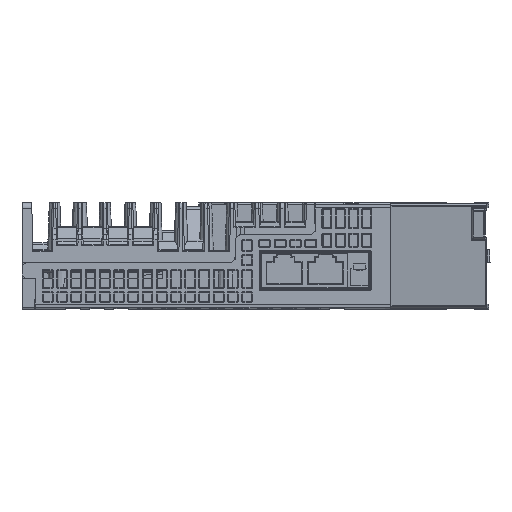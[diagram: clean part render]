
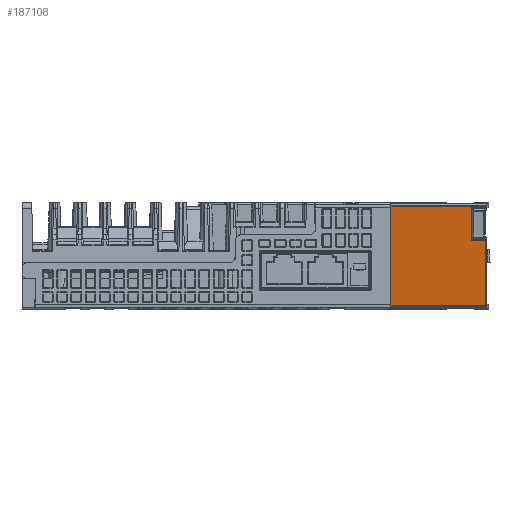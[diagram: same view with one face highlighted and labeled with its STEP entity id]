
A CAD part, left-side view. The second image highlights one B-rep face of the part: STEP entity #187108.
In plain terms, the highlighted planar face has unit normal (-0.985, 0.174, 0).
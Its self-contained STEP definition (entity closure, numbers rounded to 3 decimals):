
#54335=DIRECTION('',(0.174,0.985,0.));
#54336=VECTOR('',#54335,36.104);
#54337=CARTESIAN_POINT('',(-90.768,-97.282,
32.593));
#54338=LINE('',#54337,#54336);
#54347=DIRECTION('',(-0.174,-0.985,
0.));
#54348=VECTOR('',#54347,36.104);
#54349=CARTESIAN_POINT('',(-84.498,-61.727,
-4.993));
#54350=LINE('',#54349,#54348);
#54548=DIRECTION('',(0.,0.,1.));
#54549=VECTOR('',#54548,24.451);
#54550=CARTESIAN_POINT('',(-90.768,-97.282,
-4.993));
#54551=LINE('',#54550,#54549);
#54583=DIRECTION('',(0.174,0.985,0.));
#54584=VECTOR('',#54583,4.937);
#54585=CARTESIAN_POINT('',(-90.768,-97.282,
19.458));
#54586=LINE('',#54585,#54584);
#54591=CARTESIAN_POINT('',(-89.91,-92.42,
19.458));
#54592=CARTESIAN_POINT('',(-89.9,-92.361,
19.459));
#54593=CARTESIAN_POINT('',(-89.88,-92.25,
19.476));
#54594=CARTESIAN_POINT('',(-89.855,-92.104,
19.55));
#54595=CARTESIAN_POINT('',(-89.834,-91.99,
19.664));
#54596=CARTESIAN_POINT('',(-89.822,-91.92,
19.804));
#54597=CARTESIAN_POINT('',(-89.82,-91.905,
19.9));
#54598=CARTESIAN_POINT('',(-89.82,-91.905,
19.95));
#54614=DIRECTION('',(0.,0.,1.));
#54615=VECTOR('',#54614,11.701);
#54616=CARTESIAN_POINT('',(-89.82,-91.905,
19.95));
#54617=LINE('',#54616,#54615);
#54623=CARTESIAN_POINT('',(-89.82,-91.905,
31.65));
#54624=CARTESIAN_POINT('',(-89.82,-91.905,
31.702));
#54625=CARTESIAN_POINT('',(-89.822,-91.921,
31.799));
#54626=CARTESIAN_POINT('',(-89.835,-91.992,
31.939));
#54627=CARTESIAN_POINT('',(-89.855,-92.104,
32.049));
#54628=CARTESIAN_POINT('',(-89.88,-92.248,
32.124));
#54629=CARTESIAN_POINT('',(-89.9,-92.36,
32.141));
#54630=CARTESIAN_POINT('',(-89.91,-92.42,
32.142));
#54958=DIRECTION('',(-0.174,-0.985,0.));
#54959=VECTOR('',#54958,4.937);
#54960=CARTESIAN_POINT('',(-89.91,-92.42,
32.142));
#54961=LINE('',#54960,#54959);
#54962=DIRECTION('',(0.,0.,1.));
#54963=VECTOR('',#54962,0.451);
#54964=CARTESIAN_POINT('',(-90.768,-97.282,
32.142));
#54965=LINE('',#54964,#54963);
#55226=DIRECTION('',(0.,0.,-1.));
#55227=VECTOR('',#55226,37.586);
#55228=CARTESIAN_POINT('',(-84.498,-61.727,
32.593));
#55229=LINE('',#55228,#55227);
#85913=CARTESIAN_POINT('',(-84.498,-61.727,
-4.993));
#85914=VERTEX_POINT('',#85913);
#85915=CARTESIAN_POINT('',(-84.498,-61.727,
32.593));
#85916=VERTEX_POINT('',#85915);
#85950=CARTESIAN_POINT('',(-90.768,-97.282,
32.593));
#85951=VERTEX_POINT('',#85950);
#85952=CARTESIAN_POINT('',(-90.768,-97.282,
-4.993));
#85953=VERTEX_POINT('',#85952);
#85954=CARTESIAN_POINT('',(-90.768,-97.282,
32.142));
#85955=VERTEX_POINT('',#85954);
#85956=CARTESIAN_POINT('',(-89.91,-92.42,
32.142));
#85957=VERTEX_POINT('',#85956);
#85958=VERTEX_POINT('',#54623);
#85959=CARTESIAN_POINT('',(-89.82,-91.905,
19.95));
#85960=VERTEX_POINT('',#85959);
#85961=VERTEX_POINT('',#54591);
#85962=CARTESIAN_POINT('',(-90.768,-97.282,
19.458));
#85963=VERTEX_POINT('',#85962);
#187082=CARTESIAN_POINT('',(-87.613,-79.39,13.8));
#187083=DIRECTION('',(0.985,-0.174,0.));
#187084=DIRECTION('',(0.,0.,-1.));
#187085=AXIS2_PLACEMENT_3D('',#187082,#187083,#187084);
#187086=PLANE('',#187085);
#187088=ORIENTED_EDGE('',*,*,#187087,.F.);
#187090=ORIENTED_EDGE('',*,*,#187089,.F.);
#187091=ORIENTED_EDGE('',*,*,#187065,.F.);
#187093=ORIENTED_EDGE('',*,*,#187092,.F.);
#187095=ORIENTED_EDGE('',*,*,#187094,.F.);
#187097=ORIENTED_EDGE('',*,*,#187096,.F.);
#187099=ORIENTED_EDGE('',*,*,#187098,.F.);
#187101=ORIENTED_EDGE('',*,*,#187100,.F.);
#187103=ORIENTED_EDGE('',*,*,#187102,.F.);
#187105=ORIENTED_EDGE('',*,*,#187104,.F.);
#187106=EDGE_LOOP('',(#187088,#187090,#187091,#187093,#187095,#187097,#187099,
#187101,#187103,#187105));
#187107=FACE_OUTER_BOUND('',#187106,.F.);
#187108=ADVANCED_FACE('',(#187107),#187086,.F.);
#54599=B_SPLINE_CURVE_WITH_KNOTS('',3,(#54591,#54592,#54593,#54594,#54595,
#54596,#54597,#54598),.UNSPECIFIED.,.F.,.F.,(4,1,1,1,1,4),(0.,0.2,0.4,
0.6,0.8,1.),.UNSPECIFIED.);
#54631=B_SPLINE_CURVE_WITH_KNOTS('',3,(#54623,#54624,#54625,#54626,#54627,
#54628,#54629,#54630),.UNSPECIFIED.,.F.,.F.,(4,1,1,1,1,4),(0.,0.2,0.4,
0.6,0.8,1.),.UNSPECIFIED.);
#187065=EDGE_CURVE('',#85951,#85916,#54338,.T.);
#187087=EDGE_CURVE('',#85914,#85953,#54350,.T.);
#187089=EDGE_CURVE('',#85916,#85914,#55229,.T.);
#187092=EDGE_CURVE('',#85955,#85951,#54965,.T.);
#187094=EDGE_CURVE('',#85957,#85955,#54961,.T.);
#187096=EDGE_CURVE('',#85958,#85957,#54631,.T.);
#187098=EDGE_CURVE('',#85960,#85958,#54617,.T.);
#187100=EDGE_CURVE('',#85961,#85960,#54599,.T.);
#187102=EDGE_CURVE('',#85963,#85961,#54586,.T.);
#187104=EDGE_CURVE('',#85953,#85963,#54551,.T.);
